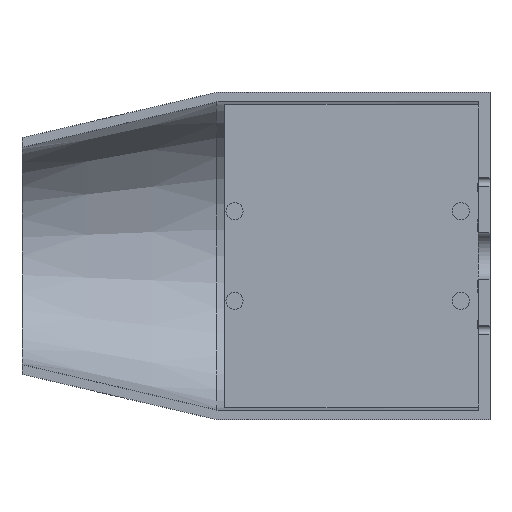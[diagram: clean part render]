
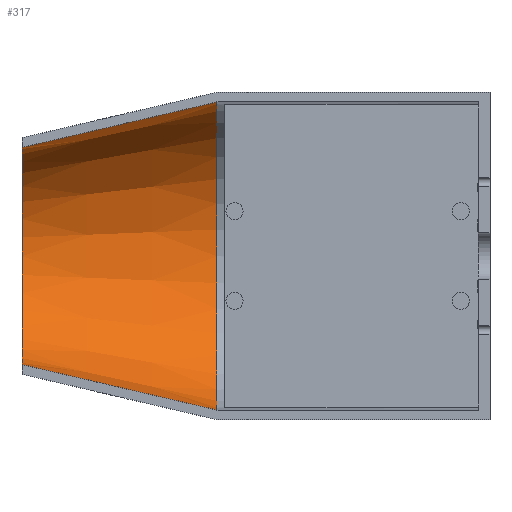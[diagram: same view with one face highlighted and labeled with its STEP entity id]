
A CAD part, top view. The second image highlights one B-rep face of the part: STEP entity #317.
In plain terms, the highlighted conical face has half-angle 13.134 degrees and reference radius 27.833 mm.
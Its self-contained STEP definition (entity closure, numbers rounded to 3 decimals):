
#22 = VERTEX_POINT('',#23);
#23 = CARTESIAN_POINT('',(10.,27.833,0.));
#32 = PLANE('',#33);
#33 = AXIS2_PLACEMENT_3D('',#34,#35,#36);
#34 = CARTESIAN_POINT('',(10.,0.,0.));
#35 = DIRECTION('',(1.,0.,0.));
#36 = DIRECTION('',(-0.,1.,0.));
#43 = PLANE('',#44);
#44 = AXIS2_PLACEMENT_3D('',#45,#46,#47);
#45 = CARTESIAN_POINT('',(-1.,-50.,0.));
#46 = DIRECTION('',(0.,0.,1.));
#47 = DIRECTION('',(1.,0.,0.));
#84 = VERTEX_POINT('',#85);
#85 = CARTESIAN_POINT('',(10.,-27.833,0.));
#98 = PLANE('',#99);
#99 = AXIS2_PLACEMENT_3D('',#100,#101,#102);
#100 = CARTESIAN_POINT('',(-1.,-50.,0.));
#101 = DIRECTION('',(0.,0.,1.));
#102 = DIRECTION('',(1.,0.,0.));
#109 = EDGE_CURVE('',#84,#22,#110,.T.);
#110 = SURFACE_CURVE('',#111,(#116,#123),.PCURVE_S1.);
#111 = CIRCLE('',#112,27.833);
#112 = AXIS2_PLACEMENT_3D('',#113,#114,#115);
#113 = CARTESIAN_POINT('',(10.,0.,0.));
#114 = DIRECTION('',(1.,0.,0.));
#115 = DIRECTION('',(-0.,1.,0.));
#116 = PCURVE('',#32,#117);
#117 = DEFINITIONAL_REPRESENTATION('',(#118),#122);
#118 = CIRCLE('',#119,27.833);
#119 = AXIS2_PLACEMENT_2D('',#120,#121);
#120 = CARTESIAN_POINT('',(0.,0.));
#121 = DIRECTION('',(1.,-0.));
#122 = ( GEOMETRIC_REPRESENTATION_CONTEXT(2) 
PARAMETRIC_REPRESENTATION_CONTEXT() REPRESENTATION_CONTEXT('2D SPACE',''
  ) );
#123 = PCURVE('',#124,#129);
#124 = CONICAL_SURFACE('',#125,27.833,0.229);
#125 = AXIS2_PLACEMENT_3D('',#126,#127,#128);
#126 = CARTESIAN_POINT('',(10.,0.,0.));
#127 = DIRECTION('',(1.,0.,0.));
#128 = DIRECTION('',(-0.,1.,0.));
#129 = DEFINITIONAL_REPRESENTATION('',(#130),#134);
#130 = LINE('',#131,#132);
#131 = CARTESIAN_POINT('',(0.,0.));
#132 = VECTOR('',#133,1.);
#133 = DIRECTION('',(1.,0.));
#134 = ( GEOMETRIC_REPRESENTATION_CONTEXT(2) 
PARAMETRIC_REPRESENTATION_CONTEXT() REPRESENTATION_CONTEXT('2D SPACE',''
  ) );
#163 = EDGE_CURVE('',#22,#164,#166,.T.);
#164 = VERTEX_POINT('',#165);
#165 = CARTESIAN_POINT('',(60.,39.5,0.));
#166 = SURFACE_CURVE('',#167,(#171,#178),.PCURVE_S1.);
#167 = LINE('',#168,#169);
#168 = CARTESIAN_POINT('',(10.,27.833,0.));
#169 = VECTOR('',#170,1.);
#170 = DIRECTION('',(0.974,0.227,0.));
#171 = PCURVE('',#43,#172);
#172 = DEFINITIONAL_REPRESENTATION('',(#173),#177);
#173 = LINE('',#174,#175);
#174 = CARTESIAN_POINT('',(11.,77.833));
#175 = VECTOR('',#176,1.);
#176 = DIRECTION('',(0.974,0.227));
#177 = ( GEOMETRIC_REPRESENTATION_CONTEXT(2) 
PARAMETRIC_REPRESENTATION_CONTEXT() REPRESENTATION_CONTEXT('2D SPACE',''
  ) );
#178 = PCURVE('',#124,#179);
#179 = DEFINITIONAL_REPRESENTATION('',(#180),#184);
#180 = LINE('',#181,#182);
#181 = CARTESIAN_POINT('',(6.283,0.));
#182 = VECTOR('',#183,1.);
#183 = DIRECTION('',(0.,1.));
#184 = ( GEOMETRIC_REPRESENTATION_CONTEXT(2) 
PARAMETRIC_REPRESENTATION_CONTEXT() REPRESENTATION_CONTEXT('2D SPACE',''
  ) );
#202 = CYLINDRICAL_SURFACE('',#203,39.5);
#203 = AXIS2_PLACEMENT_3D('',#204,#205,#206);
#204 = CARTESIAN_POINT('',(60.,0.,0.));
#205 = DIRECTION('',(1.,0.,0.));
#206 = DIRECTION('',(-0.,1.,0.));
#317 = ADVANCED_FACE('',(#318),#124,.F.);
#318 = FACE_BOUND('',#319,.F.);
#319 = EDGE_LOOP('',(#320,#321,#322,#346));
#320 = ORIENTED_EDGE('',*,*,#109,.T.);
#321 = ORIENTED_EDGE('',*,*,#163,.T.);
#322 = ORIENTED_EDGE('',*,*,#323,.F.);
#323 = EDGE_CURVE('',#324,#164,#326,.T.);
#324 = VERTEX_POINT('',#325);
#325 = CARTESIAN_POINT('',(60.,-39.5,0.));
#326 = SURFACE_CURVE('',#327,(#332,#339),.PCURVE_S1.);
#327 = CIRCLE('',#328,39.5);
#328 = AXIS2_PLACEMENT_3D('',#329,#330,#331);
#329 = CARTESIAN_POINT('',(60.,0.,0.));
#330 = DIRECTION('',(1.,0.,0.));
#331 = DIRECTION('',(-0.,1.,0.));
#332 = PCURVE('',#124,#333);
#333 = DEFINITIONAL_REPRESENTATION('',(#334),#338);
#334 = LINE('',#335,#336);
#335 = CARTESIAN_POINT('',(0.,50.));
#336 = VECTOR('',#337,1.);
#337 = DIRECTION('',(1.,0.));
#338 = ( GEOMETRIC_REPRESENTATION_CONTEXT(2) 
PARAMETRIC_REPRESENTATION_CONTEXT() REPRESENTATION_CONTEXT('2D SPACE',''
  ) );
#339 = PCURVE('',#202,#340);
#340 = DEFINITIONAL_REPRESENTATION('',(#341),#345);
#341 = LINE('',#342,#343);
#342 = CARTESIAN_POINT('',(0.,0.));
#343 = VECTOR('',#344,1.);
#344 = DIRECTION('',(1.,0.));
#345 = ( GEOMETRIC_REPRESENTATION_CONTEXT(2) 
PARAMETRIC_REPRESENTATION_CONTEXT() REPRESENTATION_CONTEXT('2D SPACE',''
  ) );
#346 = ORIENTED_EDGE('',*,*,#347,.F.);
#347 = EDGE_CURVE('',#84,#324,#348,.T.);
#348 = SURFACE_CURVE('',#349,(#353,#359),.PCURVE_S1.);
#349 = LINE('',#350,#351);
#350 = CARTESIAN_POINT('',(-109.286,0.,0.));
#351 = VECTOR('',#352,1.);
#352 = DIRECTION('',(0.974,-0.227,0.));
#353 = PCURVE('',#124,#354);
#354 = DEFINITIONAL_REPRESENTATION('',(#355),#358);
#355 = B_SPLINE_CURVE_WITH_KNOTS('',1,(#356,#357),.UNSPECIFIED.,.F.,.F.,
  (2,2),(122.49,173.833),.PIECEWISE_BEZIER_KNOTS.);
#356 = CARTESIAN_POINT('',(3.142,0.));
#357 = CARTESIAN_POINT('',(3.142,50.));
#358 = ( GEOMETRIC_REPRESENTATION_CONTEXT(2) 
PARAMETRIC_REPRESENTATION_CONTEXT() REPRESENTATION_CONTEXT('2D SPACE',''
  ) );
#359 = PCURVE('',#98,#360);
#360 = DEFINITIONAL_REPRESENTATION('',(#361),#364);
#361 = B_SPLINE_CURVE_WITH_KNOTS('',1,(#362,#363),.UNSPECIFIED.,.F.,.F.,
  (2,2),(122.49,173.833),.PIECEWISE_BEZIER_KNOTS.);
#362 = CARTESIAN_POINT('',(11.,22.167));
#363 = CARTESIAN_POINT('',(61.,10.5));
#364 = ( GEOMETRIC_REPRESENTATION_CONTEXT(2) 
PARAMETRIC_REPRESENTATION_CONTEXT() REPRESENTATION_CONTEXT('2D SPACE',''
  ) );
